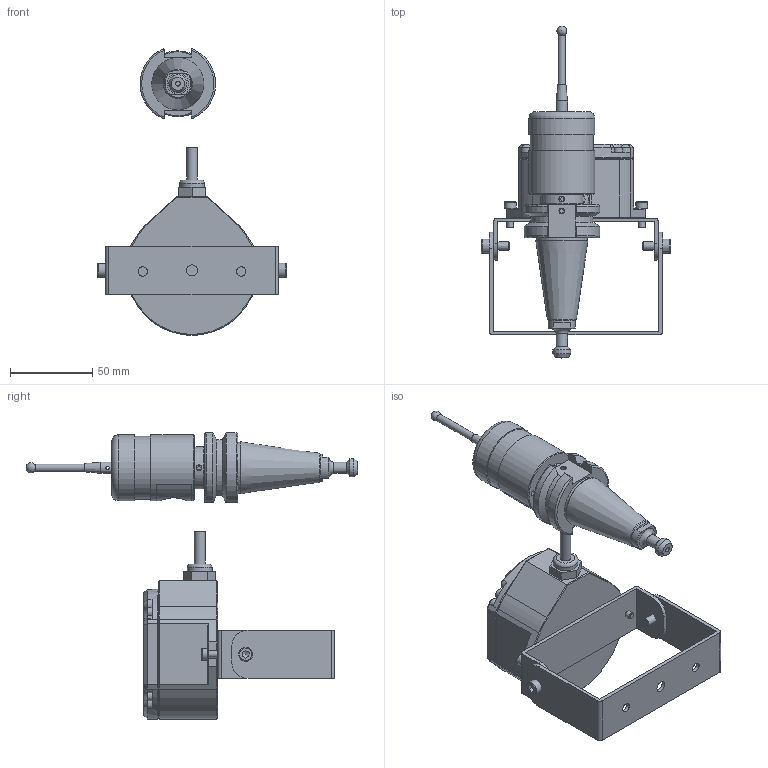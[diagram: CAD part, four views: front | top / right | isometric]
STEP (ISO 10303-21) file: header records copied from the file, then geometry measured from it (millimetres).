
FILE_DESCRIPTION(/* description */ (''),/* implementation_level */ '2;1');
FILE_NAME(/* name */ '',/* time_stamp */ '2024-10-24T16:56:33+03:00',/* author */ ('OborotistovI'),/* organization */ (''),/* preprocessor_version */ 'ST-DEVELOPER v19.2',/* originating_system */ 'Autodesk Inventor 2024',/* authorisation */ '');
FILE_SCHEMA (('AUTOMOTIVE_DESIGN { 1 0 10303 214 3 1 1 }'));
Length unit declared in the file: millimetre
Products named in the file (10): Оптический датчик-
центроискатель Т-
50А (конус ВТ30); BT-30; Штревель ВТ-
30; Датчик T-50A; Датчик; Кронштейн (T-50A); Крепление 1 (T-50A); Крепление 2 (T-50A); Винт M5-6gx12 ГОСТ 
11738-84; Винт M4-6gx12 ГОСТ 
11738-84
Assembly tree (11 placements, depth 3):
  Оптический датчик-
центроискатель Т-
50А (конус ВТ30)
    BT-30
    Штревель ВТ-
30
    Датчик T-50A
    Датчик
    Кронштейн (T-50A)
      Крепление 1 (T-50A)
      Крепление 2 (T-50A)
      Винт M5-6gx12 ГОСТ 
11738-84  x2
      Винт M4-6gx12 ГОСТ 
11738-84  x2
Bounding box: 115.3 x 201.98 x 174.29 mm (x, y, z)
Volume: 354930.6 mm3; surface area: 79191.4 mm2
Topology: 10 solids, 10 shells, 490 faces, 1143 edges, 738 vertices
Faces by surface type: plane 301, cylinder 109, cone 58, torus 21, sphere 1
Full cylindrical faces by diameter (mm): 2 x1, 2.7 x2, 2.9 x1, 3.242 x2, 3.3 x8, 3.5 x6, 4 x2, 4.134 x2, 4.5 x1, 5 x4, 5.5 x4, 5.7 x4, 6.5 x1, 6.7 x1, 6.9 x2, 7 x3, 8 x1, 8.5 x2, 8.9 x1, 9.5 x1, 10 x1, 10.4 x1, 10.6 x1, 11 x2, 11.4 x1, 11.6 x1, 12.4 x1, 12.6 x1, 15 x1, 15.8 x1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
Entity records: 13837 total; most frequent: CARTESIAN_POINT 2674, DIRECTION 2277, ORIENTED_EDGE 2134, EDGE_CURVE 1067, AXIS2_PLACEMENT_3D 799, VERTEX_POINT 690, LINE 679, VECTOR 679
